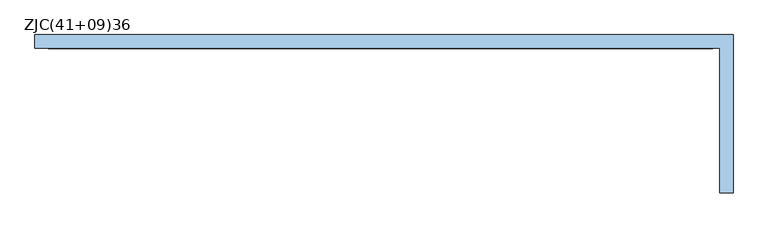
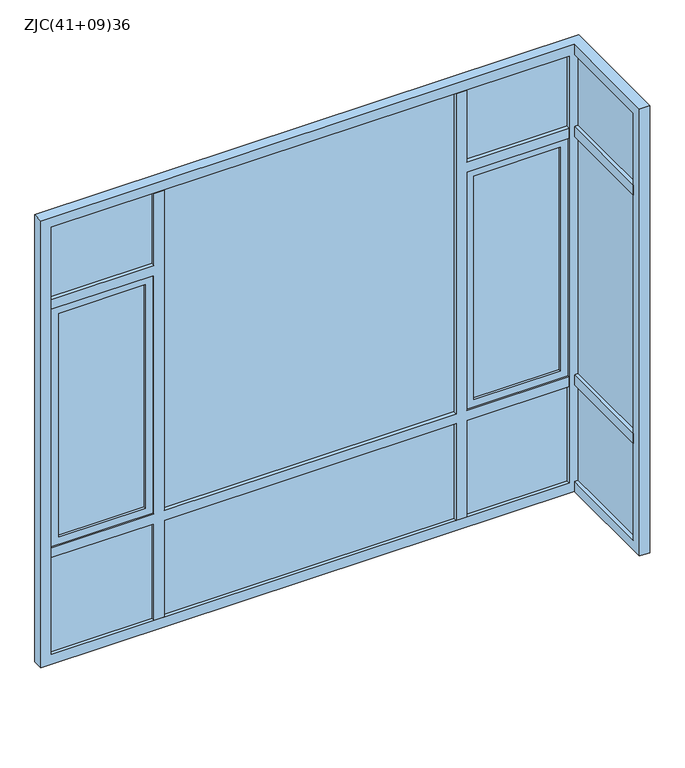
"""IFC4 building model written with IfcOpenShell, lengths in millimetres: window geometry, 转角窗 安荣伟 : ZJC(41+09)36."""

from ifc_helpers import new_model, si_unit, frame, origin, place, context, project, spatial, polyline, outline, extrude, faceted_brep, source, transform, mapped, element, save


def zjc_41_09_36_8a23be3f(model_context):
    return source(origin(), model_context, "Body", "SolidModel", [
        faceted_brep([(-4100.0, 40.0, 3600.0), (40.0, 40.0, 3600.0), (40.0, 40.0, 0.0), (-4100.0, 40.0, 0.0), (-80.0, 40.0, 3520.0), (-4020.0, 40.0, 3520.0), (-4020.0, 40.0, 80.0), (-80.0, 40.0, 80.0), (-4100.0, -40.0, 0.0), (-40.0, -40.0, 0.0), (-40.0, -40.0, 80.0), (40.0, -40.0, 80.0), (40.0, -40.0, 3520.0), (-40.0, -40.0, 3520.0), (-40.0, -40.0, 3600.0), (-4100.0, -40.0, 3600.0), (-80.0, -40.0, 3520.0), (-80.0, -40.0, 80.0), (-4020.0, -40.0, 80.0), (-4020.0, -40.0, 3520.0), (-40.0, -900.0, 3600.0), (40.0, -900.0, 3600.0), (40.0, -900.0, 0.0), (-40.0, -900.0, 0.0), (40.0, -820.0, 3520.0), (40.0, -820.0, 80.0), (-40.0, -820.0, 3520.0), (-40.0, -820.0, 80.0)], [[[0, 1, 2, 3], [4, 5, 6, 7]], [[8, 9, 10, 11, 12, 13, 14, 15], [16, 17, 18, 19]], [[15, 14, 20, 21, 1, 0]], [[3, 8, 15, 0]], [[2, 22, 23, 9, 8, 3]], [[7, 17, 16, 4]], [[6, 18, 17, 7]], [[5, 19, 18, 6]], [[4, 16, 19, 5]], [[21, 22, 2, 1], [24, 12, 11, 25]], [[20, 14, 13, 26, 27, 10, 9, 23]], [[21, 20, 23, 22]], [[25, 27, 26, 24]], [[10, 27, 25, 11]], [[24, 26, 13, 12]]]),
        extrude(outline(polyline([(80.0, -3160.0), (860.0, -3160.0), (860.0, -940.0), (80.0, -940.0), (80.0, -860.0), (860.0, -860.0), (860.0, -80.0), (940.0, -80.0), (940.0, -860.0), (2860.0, -860.0), (2860.0, -80.0), (2940.0, -80.0), (2940.0, -860.0), (3520.0, -860.0), (3520.0, -940.0), (940.0, -940.0), (940.0, -3160.0), (3520.0, -3160.0), (3520.0, -3240.0), (2940.0, -3240.0), (2940.0, -4020.0), (2860.0, -4020.0), (2860.0, -3240.0), (940.0, -3240.0), (940.0, -4020.0), (860.0, -4020.0), (860.0, -3240.0), (80.0, -3240.0), (80.0, -3160.0)])), frame((0.0, -40.0, 0.0), z_axis=(0.0, 1.0, 0.0), x_axis=(0.0, 0.0, 1.0)), (0.0, 0.0, 1.0), 80.0),
        extrude(outline(polyline([(-6.0, -820.0), (-12.0, -820.0), (-12.0, -40.0), (-6.0, -40.0), (-6.0, -820.0)])), frame((0.0, 0.0, 2940.0), z_axis=(0.0, 0.0, 1.0), x_axis=(1.0, 0.0, 0.0)), (0.0, 0.0, 1.0), 580.0),
        extrude(outline(polyline([(-6.0, -820.0), (-12.0, -820.0), (-12.0, -40.0), (-6.0, -40.0), (-6.0, -820.0)])), frame((0.0, 0.0, 940.0), z_axis=(0.0, 0.0, 1.0), x_axis=(1.0, 0.0, 0.0)), (0.0, 0.0, 1.0), 1920.0),
        extrude(outline(polyline([(-6.0, -820.0), (-12.0, -820.0), (-12.0, -40.0), (-6.0, -40.0), (-6.0, -820.0)])), frame((0.0, 0.0, 80.0), z_axis=(0.0, 0.0, 1.0), x_axis=(1.0, 0.0, 0.0)), (0.0, 0.0, 1.0), 780.0),
        extrude(outline(polyline([(12.0, -820.0), (6.0, -820.0), (6.0, -40.0), (12.0, -40.0), (12.0, -820.0)])), frame((0.0, 0.0, 2940.0), z_axis=(0.0, 0.0, 1.0), x_axis=(1.0, 0.0, 0.0)), (0.0, 0.0, 1.0), 580.0),
        extrude(outline(polyline([(12.0, -820.0), (6.0, -820.0), (6.0, -40.0), (12.0, -40.0), (12.0, -820.0)])), frame((0.0, 0.0, 940.0), z_axis=(0.0, 0.0, 1.0), x_axis=(1.0, 0.0, 0.0)), (0.0, 0.0, 1.0), 1920.0),
        extrude(outline(polyline([(12.0, -820.0), (6.0, -820.0), (6.0, -40.0), (12.0, -40.0), (12.0, -820.0)])), frame((0.0, 0.0, 80.0), z_axis=(0.0, 0.0, 1.0), x_axis=(1.0, 0.0, 0.0)), (0.0, 0.0, 1.0), 780.0),
        extrude(outline(polyline([(-3240.0, -6.0), (-3240.0, -12.0), (-4020.0, -12.0), (-4020.0, -6.0), (-3240.0, -6.0)])), frame((0.0, 0.0, 2940.0), z_axis=(0.0, 0.0, 1.0), x_axis=(1.0, 0.0, 0.0)), (0.0, 0.0, 1.0), 580.0),
        extrude(outline(polyline([(-3300.0, -6.0), (-3300.0, -12.0), (-3960.0, -12.0), (-3960.0, -6.0), (-3300.0, -6.0)])), frame((0.0, 0.0, 1000.0), z_axis=(0.0, 0.0, 1.0), x_axis=(1.0, 0.0, 0.0)), (0.0, 0.0, 1.0), 1800.0),
        extrude(outline(polyline([(-940.0, -6.0), (-940.0, -12.0), (-3160.0, -12.0), (-3160.0, -6.0), (-940.0, -6.0)])), frame((0.0, 0.0, 940.0), z_axis=(0.0, 0.0, 1.0), x_axis=(1.0, 0.0, 0.0)), (0.0, 0.0, 1.0), 2580.0),
        extrude(outline(polyline([(-80.0, -6.0), (-80.0, -12.0), (-860.0, -12.0), (-860.0, -6.0), (-80.0, -6.0)])), frame((0.0, 0.0, 2940.0), z_axis=(0.0, 0.0, 1.0), x_axis=(1.0, 0.0, 0.0)), (0.0, 0.0, 1.0), 580.0),
        extrude(outline(polyline([(-140.0, -6.0), (-140.0, -12.0), (-800.0, -12.0), (-800.0, -6.0), (-140.0, -6.0)])), frame((0.0, 0.0, 1000.0), z_axis=(0.0, 0.0, 1.0), x_axis=(1.0, 0.0, 0.0)), (0.0, 0.0, 1.0), 1800.0),
        extrude(outline(polyline([(-3240.0, -6.0), (-3240.0, -12.0), (-4020.0, -12.0), (-4020.0, -6.0), (-3240.0, -6.0)])), frame((0.0, 0.0, 80.0), z_axis=(0.0, 0.0, 1.0), x_axis=(1.0, 0.0, 0.0)), (0.0, 0.0, 1.0), 780.0),
        extrude(outline(polyline([(-940.0, -6.0), (-940.0, -12.0), (-3160.0, -12.0), (-3160.0, -6.0), (-940.0, -6.0)])), frame((0.0, 0.0, 80.0), z_axis=(0.0, 0.0, 1.0), x_axis=(1.0, 0.0, 0.0)), (0.0, 0.0, 1.0), 780.0),
        extrude(outline(polyline([(-80.0, -6.0), (-80.0, -12.0), (-860.0, -12.0), (-860.0, -6.0), (-80.0, -6.0)])), frame((0.0, 0.0, 80.0), z_axis=(0.0, 0.0, 1.0), x_axis=(1.0, 0.0, 0.0)), (0.0, 0.0, 1.0), 780.0),
        extrude(outline(polyline([(-3240.0, 12.0), (-3240.0, 6.0), (-4020.0, 6.0), (-4020.0, 12.0), (-3240.0, 12.0)])), frame((0.0, 0.0, 2940.0), z_axis=(0.0, 0.0, 1.0), x_axis=(1.0, 0.0, 0.0)), (0.0, 0.0, 1.0), 580.0),
        extrude(outline(polyline([(-3300.0, 12.0), (-3300.0, 6.0), (-3960.0, 6.0), (-3960.0, 12.0), (-3300.0, 12.0)])), frame((0.0, 0.0, 1000.0), z_axis=(0.0, 0.0, 1.0), x_axis=(1.0, 0.0, 0.0)), (0.0, 0.0, 1.0), 1800.0),
        extrude(outline(polyline([(-940.0, 12.0), (-940.0, 6.0), (-3160.0, 6.0), (-3160.0, 12.0), (-940.0, 12.0)])), frame((0.0, 0.0, 940.0), z_axis=(0.0, 0.0, 1.0), x_axis=(1.0, 0.0, 0.0)), (0.0, 0.0, 1.0), 2580.0),
        extrude(outline(polyline([(-80.0, 12.0), (-80.0, 6.0), (-860.0, 6.0), (-860.0, 12.0), (-80.0, 12.0)])), frame((0.0, 0.0, 2940.0), z_axis=(0.0, 0.0, 1.0), x_axis=(1.0, 0.0, 0.0)), (0.0, 0.0, 1.0), 580.0),
        extrude(outline(polyline([(-140.0, 12.0), (-140.0, 6.0), (-800.0, 6.0), (-800.0, 12.0), (-140.0, 12.0)])), frame((0.0, 0.0, 1000.0), z_axis=(0.0, 0.0, 1.0), x_axis=(1.0, 0.0, 0.0)), (0.0, 0.0, 1.0), 1800.0),
        extrude(outline(polyline([(-3240.0, 12.0), (-3240.0, 6.0), (-4020.0, 6.0), (-4020.0, 12.0), (-3240.0, 12.0)])), frame((0.0, 0.0, 80.0), z_axis=(0.0, 0.0, 1.0), x_axis=(1.0, 0.0, 0.0)), (0.0, 0.0, 1.0), 780.0),
        extrude(outline(polyline([(-940.0, 12.0), (-940.0, 6.0), (-3160.0, 6.0), (-3160.0, 12.0), (-940.0, 12.0)])), frame((0.0, 0.0, 80.0), z_axis=(0.0, 0.0, 1.0), x_axis=(1.0, 0.0, 0.0)), (0.0, 0.0, 1.0), 780.0),
        extrude(outline(polyline([(-80.0, 12.0), (-80.0, 6.0), (-860.0, 6.0), (-860.0, 12.0), (-80.0, 12.0)])), frame((0.0, 0.0, 80.0), z_axis=(0.0, 0.0, 1.0), x_axis=(1.0, 0.0, 0.0)), (0.0, 0.0, 1.0), 780.0),
        extrude(outline(polyline([(40.0, -820.0), (-40.0, -820.0), (-40.0, -40.0), (40.0, -40.0), (40.0, -820.0)])), frame((0.0, 0.0, 2860.0), z_axis=(0.0, 0.0, 1.0), x_axis=(1.0, 0.0, 0.0)), (0.0, 0.0, 1.0), 80.0),
        extrude(outline(polyline([(40.0, -820.0), (-40.0, -820.0), (-40.0, -40.0), (40.0, -40.0), (40.0, -820.0)])), frame((0.0, 0.0, 860.0), z_axis=(0.0, 0.0, 1.0), x_axis=(1.0, 0.0, 0.0)), (0.0, 0.0, 1.0), 80.0),
        extrude(outline(polyline([(2860.0, -3240.0), (2860.0, -4020.0), (940.0, -4020.0), (940.0, -3240.0), (2860.0, -3240.0)]), holes=[polyline([(2800.0, -3300.0), (1000.0, -3300.0), (1000.0, -3960.0), (2800.0, -3960.0), (2800.0, -3300.0)])]), frame((0.0, -30.0, 0.0), z_axis=(0.0, 1.0, 0.0), x_axis=(0.0, 0.0, 1.0)), (0.0, 0.0, 1.0), 60.0),
        extrude(outline(polyline([(2860.0, -80.0), (2860.0, -860.0), (940.0, -860.0), (940.0, -80.0), (2860.0, -80.0)]), holes=[polyline([(2800.0, -140.0), (1000.0, -140.0), (1000.0, -800.0), (2800.0, -800.0), (2800.0, -140.0)])]), frame((0.0, -30.0, 0.0), z_axis=(0.0, 1.0, 0.0), x_axis=(0.0, 0.0, 1.0)), (0.0, 0.0, 1.0), 60.0),
    ])


if __name__ == "__main__":
    model = new_model("IFC4")
    model_context = context("Model", 3, world=origin())
    ifc_project = project(units=[si_unit("LENGTHUNIT", "METRE", prefix="MILLI")], contexts=[model_context])
    site = spatial("IfcSite", under=ifc_project)
    building = spatial("IfcBuilding", under=site)
    placement = place(None, origin())
    zjc_41_09_36_shape = zjc_41_09_36_8a23be3f(model_context)
    element("IfcWindow", 1, ObjectType="转角窗 安荣伟 : ZJC(41+09)36", at=placement, inside=building, context=model_context, shape_type="MappedRepresentation", body=[
        mapped(zjc_41_09_36_shape, transform((0.0, 0.0, 0.0), x_axis=(1.0, 0.0, 0.0), y_axis=(0.0, 1.0, 0.0), z_axis=(0.0, 0.0, 1.0))),
    ])
    save(model, "model.ifc")
